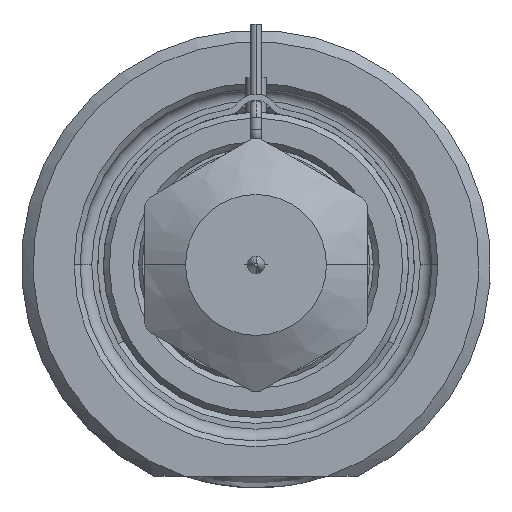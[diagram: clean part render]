
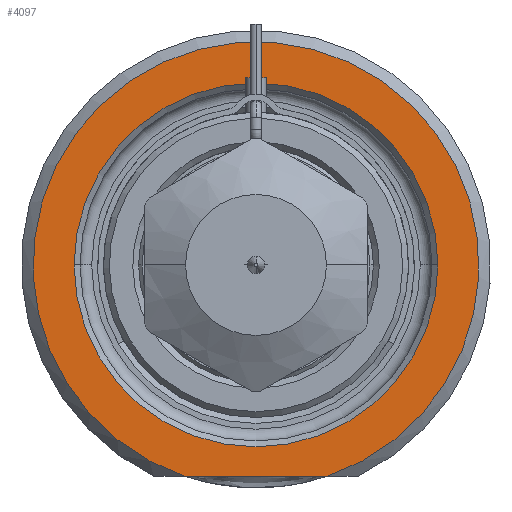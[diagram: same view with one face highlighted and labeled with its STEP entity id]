
A CAD part, front view. The second image highlights one B-rep face of the part: STEP entity #4097.
In plain terms, the highlighted planar face has unit normal (0, -1, 0).
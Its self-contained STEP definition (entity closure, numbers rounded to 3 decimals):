
#1=DIRECTION('',(1.,0.,0.));
#2=VECTOR('',#1,12.166);
#3=CARTESIAN_POINT('',(-6.083,0.,-18.));
#4=LINE('',#3,#2);
#5=CARTESIAN_POINT('',(0.,0.,0.));
#6=DIRECTION('',(0.,1.,0.));
#7=DIRECTION('',(-1.,0.,0.));
#8=AXIS2_PLACEMENT_3D('',#5,#6,#7);
#10=CARTESIAN_POINT('',(0.,0.,0.));
#11=DIRECTION('',(0.,1.,0.));
#12=DIRECTION('',(1.,0.,0.));
#13=AXIS2_PLACEMENT_3D('',#10,#11,#12);
#264=CARTESIAN_POINT('',(0.,0.,0.));
#265=DIRECTION('',(0.,-1.,0.));
#266=DIRECTION('',(0.32,0.,-0.947));
#267=AXIS2_PLACEMENT_3D('',#264,#265,#266);
#3456=CARTESIAN_POINT('',(-15.5,0.,0.));
#3457=CARTESIAN_POINT('',(15.5,0.,0.));
#3458=VERTEX_POINT('',#3456);
#3459=VERTEX_POINT('',#3457);
#3514=CARTESIAN_POINT('',(-6.083,0.,-18.));
#3515=CARTESIAN_POINT('',(6.083,0.,-18.));
#3516=VERTEX_POINT('',#3514);
#3517=VERTEX_POINT('',#3515);
#4080=CARTESIAN_POINT('',(0.,0.,0.));
#4081=DIRECTION('',(0.,-1.,0.));
#4082=DIRECTION('',(1.,0.,0.));
#4083=AXIS2_PLACEMENT_3D('',#4080,#4081,#4082);
#4084=PLANE('',#4083);
#4086=ORIENTED_EDGE('',*,*,#4085,.F.);
#4088=ORIENTED_EDGE('',*,*,#4087,.F.);
#4089=EDGE_LOOP('',(#4086,#4088));
#4090=FACE_OUTER_BOUND('',#4089,.F.);
#4092=ORIENTED_EDGE('',*,*,#4091,.F.);
#4094=ORIENTED_EDGE('',*,*,#4093,.F.);
#4095=EDGE_LOOP('',(#4092,#4094));
#4096=FACE_BOUND('',#4095,.F.);
#4097=ADVANCED_FACE('',(#4090,#4096),#4084,.T.);
#9=CIRCLE('',#8,15.5);
#14=CIRCLE('',#13,15.5);
#268=CIRCLE('',#267,19.);
#4085=EDGE_CURVE('',#3516,#3517,#4,.T.);
#4087=EDGE_CURVE('',#3517,#3516,#268,.T.);
#4091=EDGE_CURVE('',#3458,#3459,#9,.T.);
#4093=EDGE_CURVE('',#3459,#3458,#14,.T.);
